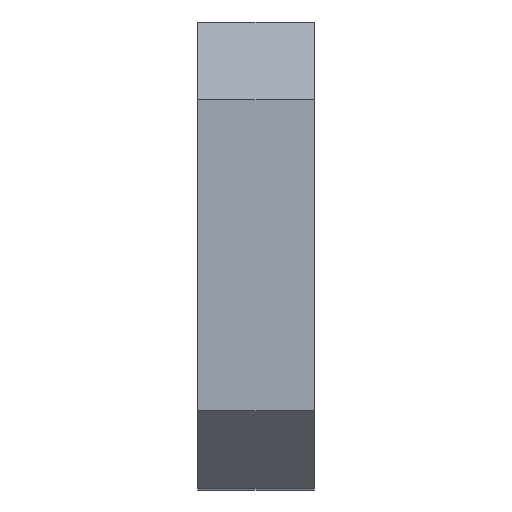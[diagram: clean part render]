
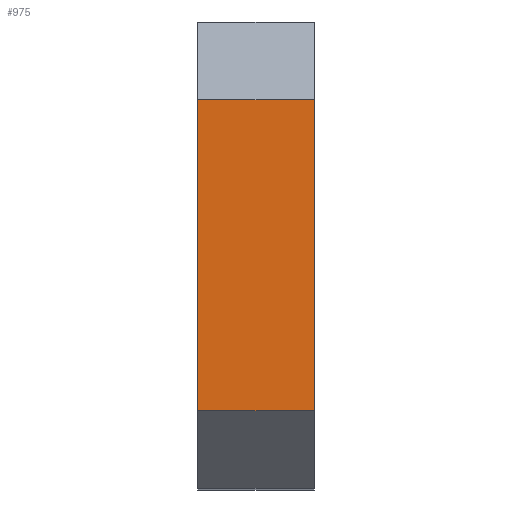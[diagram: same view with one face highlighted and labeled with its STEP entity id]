
A CAD part, top view. The second image highlights one B-rep face of the part: STEP entity #975.
In plain terms, the highlighted planar face has unit normal (0, 0, 1).
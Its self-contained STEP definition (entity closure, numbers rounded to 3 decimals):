
#45 = VECTOR ( 'NONE', #1115, 1000. ) ;
#127 = DIRECTION ( 'NONE',  ( 0., 1., 0. ) ) ;
#192 = CARTESIAN_POINT ( 'NONE',  ( -44., 16., 54. ) ) ;
#331 = LINE ( 'NONE', #1675, #1016 ) ;
#632 = AXIS2_PLACEMENT_3D ( 'NONE', #1152, #2804, #2132 ) ;
#637 = VERTEX_POINT ( 'NONE', #2763 ) ;
#824 = ORIENTED_EDGE ( 'NONE', *, *, #1596, .F. ) ;
#859 = CARTESIAN_POINT ( 'NONE',  ( -32., -16., 54. ) ) ;
#875 = EDGE_CURVE ( 'NONE', #637, #2729, #2233, .T. ) ;
#975 = ADVANCED_FACE ( 'NONE', ( #1397 ), #1182, .T. ) ;
#1016 = VECTOR ( 'NONE', #1265, 1000. ) ;
#1115 = DIRECTION ( 'NONE',  ( 1., 0., 0. ) ) ;
#1152 = CARTESIAN_POINT ( 'NONE',  ( -44., -16., 54. ) ) ;
#1182 = PLANE ( 'NONE',  #632 ) ;
#1246 = EDGE_CURVE ( 'NONE', #2298, #637, #2765, .T. ) ;
#1265 = DIRECTION ( 'NONE',  ( 0., 1., 0. ) ) ;
#1397 = FACE_OUTER_BOUND ( 'NONE', #2177, .T. ) ;
#1531 = CARTESIAN_POINT ( 'NONE',  ( -44., 16., 54. ) ) ;
#1589 = VECTOR ( 'NONE', #2970, 1000. ) ;
#1596 = EDGE_CURVE ( 'NONE', #2667, #2729, #2953, .T. ) ;
#1675 = CARTESIAN_POINT ( 'NONE',  ( -44., -16., 54. ) ) ;
#1686 = ORIENTED_EDGE ( 'NONE', *, *, #1246, .T. ) ;
#1739 = CARTESIAN_POINT ( 'NONE',  ( -44., -16., 54. ) ) ;
#1976 = CARTESIAN_POINT ( 'NONE',  ( -32., 16., 54. ) ) ;
#2053 = VECTOR ( 'NONE', #127, 1000. ) ;
#2132 = DIRECTION ( 'NONE',  ( 1., 0., 0. ) ) ;
#2177 = EDGE_LOOP ( 'NONE', ( #2864, #824, #2229, #1686 ) ) ;
#2229 = ORIENTED_EDGE ( 'NONE', *, *, #2366, .F. ) ;
#2233 = LINE ( 'NONE', #859, #2053 ) ;
#2298 = VERTEX_POINT ( 'NONE', #1739 ) ;
#2366 = EDGE_CURVE ( 'NONE', #2298, #2667, #331, .T. ) ;
#2667 = VERTEX_POINT ( 'NONE', #192 ) ;
#2729 = VERTEX_POINT ( 'NONE', #1976 ) ;
#2763 = CARTESIAN_POINT ( 'NONE',  ( -32., -16., 54. ) ) ;
#2765 = LINE ( 'NONE', #2777, #1589 ) ;
#2777 = CARTESIAN_POINT ( 'NONE',  ( -44., -16., 54. ) ) ;
#2804 = DIRECTION ( 'NONE',  ( 0., 0., 1. ) ) ;
#2864 = ORIENTED_EDGE ( 'NONE', *, *, #875, .T. ) ;
#2953 = LINE ( 'NONE', #1531, #45 ) ;
#2970 = DIRECTION ( 'NONE',  ( 1., 0., 0. ) ) ;
